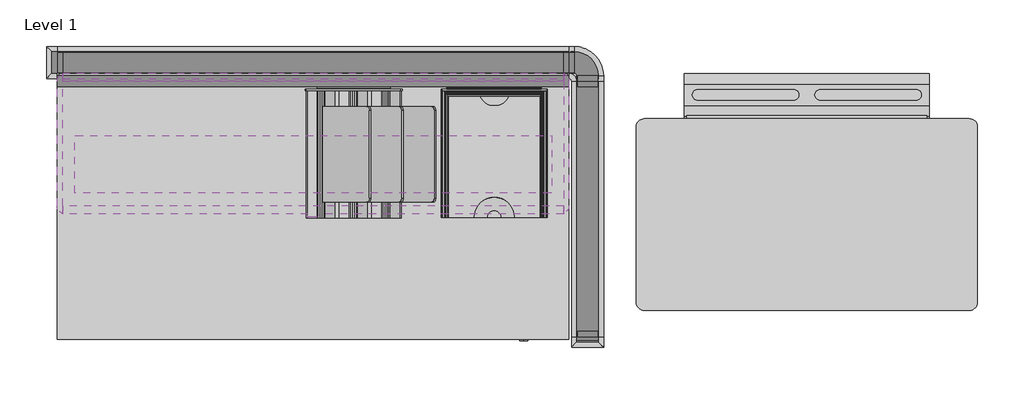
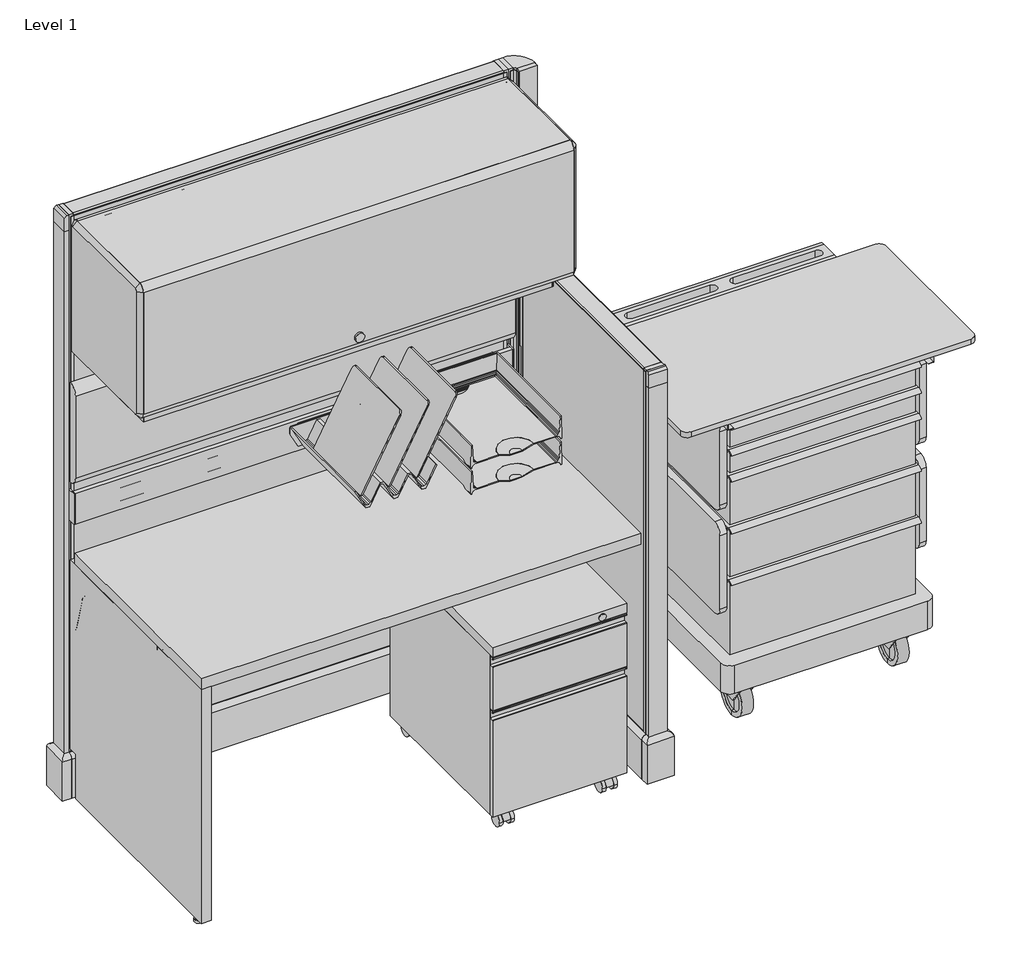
# One storey, incomplete: 26 furniture elements, 1 light fixture.
"""IFC4 building model written with IfcOpenShell, lengths in millimetres."""

from ifc_helpers import new_model, si_unit, origin, place, context, project, spatial, transform, mapped, element, save
from components import furniture_7109f743, furniture_22e63fa4, furniture_cda7a09b, furniture_49f88748, furniture_11472d89, furniture_ebb16344, furniture_8d228605, furniture_083a197f, furniture_cf1839e9, furniture_645566ab, furniture_ddd7d6d3, furniture_545f82d3, furniture_77e4657b, furniture_9296cfee, furniture_28e0df5b, furniture_b7c7402d, furniture_9d04d1cc, furniture_cbf60e6f, furniture_c08c7397, furniture_5c2546f9, furniture_ba981915, a_3_f482e030, a_3_189406c7, b_6_92a8d064, b_6_520a1b3d, c_9_607037d1, light_fixture_48w_for_action_office_09e55f13

model = new_model("IFC4")

# Units and contexts
model_context = context("Model", 3, world=origin())
ifc_project = project(units=[si_unit("LENGTHUNIT", "METRE", prefix="MILLI")], contexts=[model_context])

# Site, building, storey
site = spatial("IfcSite", under=ifc_project)
building = spatial("IfcBuilding", under=site)
storey = spatial("IfcBuildingStorey", under=building, Name="Level 1", Elevation=0.0)

# Furniture
placement = place(None, origin())
furniture_shape = furniture_7109f743(model_context)
element("IfcFurniture", 1, ObjectType="HermanMiller_ActionOffice_A1110_Hard-SurfacedPanelStandardBase : 67\"H x 48\"W-N", at=placement, inside=storey, context=model_context, shape_type="MappedRepresentation", body=[
    mapped(furniture_shape, transform((609.6, -19.05, 0.0), x_axis=(1.0, 0.0, 0.0), y_axis=(0.0, 1.0, 0.0), z_axis=(0.0, 0.0, 1.0))),
])
furniture_2_shape = furniture_22e63fa4(model_context)
element("IfcFurniture", 2, ObjectType="HermanMiller_ActionOffice_A1110_Hard-SurfacedPanelStandardBase : 47\"H x 24\"W-N", at=placement, inside=storey, context=model_context, shape_type="MappedRepresentation", body=[
    mapped(furniture_2_shape, transform((1263.6493657, -368.3, 0.0), x_axis=(0.0, -1.0, 0.0), y_axis=(1.0, 0.0, 0.0), z_axis=(0.0, 0.0, 1.0))),
])
furniture_3_shape = furniture_cda7a09b(model_context)
element("IfcFurniture", 3, ObjectType="HermanMiller_ActionOffice_A3610_ToolBar : 4\"H x 48\"W", at=placement, inside=storey, context=model_context, shape_type="MappedRepresentation", body=[
    mapped(furniture_3_shape, transform((609.6, -57.1499996, 0.0), x_axis=(1.0, 0.0, 0.0), y_axis=(0.0, 1.0, 0.0), z_axis=(0.0, 0.0, 1.0))),
])
furniture_4_shape = furniture_49f88748(model_context)
element("IfcFurniture", 4, ObjectType="HermanMiller_ActionOffice_A3410_B-StyleTackboard : 12\"H x 48\"W", at=placement, inside=storey, context=model_context, shape_type="MappedRepresentation", body=[
    mapped(furniture_4_shape, transform((609.6, -63.5, 0.0), x_axis=(1.0, 0.0, 0.0), y_axis=(0.0, 1.0, 0.0), z_axis=(0.0, 0.0, 1.0))),
])
furniture_5_shape = furniture_11472d89(model_context)
element("IfcFurniture", 5, ObjectType="HermanMiller_TuStorage_LW110_W-PullMobilePedestal : 20D BF", at=placement, inside=storey, context=model_context, shape_type="MappedRepresentation", body=[
    mapped(furniture_5_shape, transform((994.43794, -433.3875, 0.0), x_axis=(1.0, 0.0, 0.0), y_axis=(0.0, 1.0, 0.0), z_axis=(0.0, 0.0, 1.0))),
])
furniture_6_shape = furniture_ebb16344(model_context)
element("IfcFurniture", 6, ObjectType="HermanMiller_ActionOffice_B-StyleFlipperDoor : Paint 15-1/2H x 13D x 48W", at=placement, inside=storey, context=model_context, shape_type="MappedRepresentation", body=[
    mapped(furniture_6_shape, transform((609.6, -225.425, 127.0), x_axis=(1.0, 0.0, 0.0), y_axis=(0.0, 1.0, 0.0), z_axis=(0.0, 0.0, 1.0))),
])
furniture_7_shape = furniture_8d228605(model_context)
element("IfcFurniture", 7, ObjectType="HermanMiller_CoStruc_B-StyleShelf : 15-1/2H x 13D x 48W", at=placement, inside=storey, context=model_context, shape_type="MappedRepresentation", body=[
    mapped(furniture_7_shape, transform((733.5420045, -225.425, 127.0), x_axis=(1.0, 0.0, 0.0), y_axis=(0.0, 1.0, 0.0), z_axis=(0.0, 0.0, 1.0))),
])
furniture_8_shape = furniture_083a197f(model_context)
element("IfcFurniture", 8, ObjectType="HermanMiller_ActionOffice_A2310_Sq-EdgeRectangularWorkSurface : 24\"D x 48\"W", at=placement, inside=storey, context=model_context, shape_type="MappedRepresentation", body=[
    mapped(furniture_8_shape, transform((609.6, -365.125, 0.0), x_axis=(1.0, 0.0, 0.0), y_axis=(0.0, 1.0, 0.0), z_axis=(0.0, 0.0, 1.0))),
])
furniture_9_shape = furniture_cf1839e9(model_context)
element("IfcFurniture", 9, ObjectType="HermanMiller_CoStruc_CO205_CFrame : 10\"H x 17\"D x 22\"W", at=placement, inside=storey, context=model_context, shape_type="MappedRepresentation", body=[
    mapped(furniture_9_shape, transform((1691.3807951, -215.4268397, 0.0), x_axis=(1.0, 0.0, 0.0), y_axis=(0.0, 1.0, 0.0), z_axis=(0.0, 0.0, 1.0))),
])
furniture_10_shape = furniture_645566ab(model_context)
element("IfcFurniture", 10, ObjectType="HermanMiller_CoStruc_CO555_CounterTop : 18\"D x 32\"W", at=placement, inside=storey, context=model_context, shape_type="MappedRepresentation", body=[
    mapped(furniture_10_shape, transform((1786.3185, -381.93472, -9.525), x_axis=(1.0, 0.0, 0.0), y_axis=(0.0, 1.0, 0.0), z_axis=(0.0, 0.0, 1.0))),
])
furniture_11_shape = furniture_ddd7d6d3(model_context)
element("IfcFurniture", 11, ObjectType="HermanMiller_CoStruc_CO205_CFrame : 10\"H x 17\"D x 22\"W", at=placement, inside=storey, context=model_context, shape_type="MappedRepresentation", body=[
    mapped(furniture_11_shape, transform((1691.3807951, -215.4268397, 0.0), x_axis=(1.0, 0.0, 0.0), y_axis=(0.0, 1.0, 0.0), z_axis=(0.0, 0.0, 1.0))),
])
furniture_12_shape = furniture_545f82d3(model_context)
element("IfcFurniture", 12, ObjectType="HermanMiller_CoStruc_CO212_LCart : 36\"H x 23\"W Std", at=placement, inside=storey, context=model_context, shape_type="MappedRepresentation", body=[
    mapped(furniture_12_shape, transform((1786.3185, -327.95972, 0.0), x_axis=(1.0, 0.0, 0.0), y_axis=(0.0, 1.0, 0.0), z_axis=(0.0, 0.0, 1.0))),
])
furniture_13_shape = furniture_77e4657b(model_context)
element("IfcFurniture", 13, ObjectType="HermanMiller_ThrivePortfolio_Y7216_PaperTray : 3\"H x 12\"D x 10\"W", at=placement, inside=storey, context=model_context, shape_type="MappedRepresentation", body=[
    mapped(furniture_13_shape, transform((1041.29586, -235.1151, 0.0), x_axis=(1.0, 0.0, 0.0), y_axis=(0.0, 1.0, 0.0), z_axis=(0.0, 0.0, 1.0))),
])
furniture_14_shape = furniture_9296cfee(model_context)
element("IfcFurniture", 14, ObjectType="HermanMiller_ThrivePortfolio_Y7216_PaperTray : 3\"H x 12\"D x 10\"W", at=placement, inside=storey, context=model_context, shape_type="MappedRepresentation", body=[
    mapped(furniture_14_shape, transform((1041.29586, -235.1151, 0.0), x_axis=(1.0, 0.0, 0.0), y_axis=(0.0, 1.0, 0.0), z_axis=(0.0, 0.0, 1.0))),
])
furniture_15_shape = furniture_28e0df5b(model_context)
element("IfcFurniture", 15, ObjectType="HermanMiller_ThrivePortfolio_Y7218_DiagonalTray : 8 1/2\"H x 12\"D x 13\"W", at=placement, inside=storey, context=model_context, shape_type="MappedRepresentation", body=[
    mapped(furniture_15_shape, transform((706.399157, -236.62386, 0.0), x_axis=(1.0, 0.0, 0.0), y_axis=(0.0, 1.0, 0.0), z_axis=(0.0, 0.0, 1.0))),
])
furniture_16_shape = furniture_b7c7402d(model_context)
element("IfcFurniture", 16, ObjectType="HermanMiller_ActionOffice_A2380_WorkSuraceSupportPanelEnd : 24\"D", at=placement, inside=storey, context=model_context, shape_type="MappedRepresentation", body=[
    mapped(furniture_16_shape, transform((0.0, -679.45, 0.0), x_axis=(1.0, 0.0, 0.0), y_axis=(0.0, 1.0, 0.0), z_axis=(0.0, 0.0, 1.0))),
])
furniture_17_shape = furniture_9d04d1cc(model_context)
element("IfcFurniture", 17, ObjectType="HermanMiller_ActionOffice_AO259_AO272_FinishedEndChangeOfHeight : 32\"H Panel/Conn", at=placement, inside=storey, context=model_context, shape_type="MappedRepresentation", body=[
    mapped(furniture_17_shape, transform((1184.078369, -130.3709967, 0.0), x_axis=(0.0, -1.0, 0.0), y_axis=(1.0, 0.0, 0.0), z_axis=(0.0, 0.0, 1.0))),
])
furniture_18_shape = furniture_cbf60e6f(model_context)
element("IfcFurniture", 18, ObjectType="HermanMiller_ActionOffice_A1271_FinishedEndStandardBase : 47\"H", at=placement, inside=storey, context=model_context, shape_type="MappedRepresentation", body=[
    mapped(furniture_18_shape, transform((3712.3881533, 1311.7560512, 0.0), x_axis=(0.0, -1.0, 0.0), y_axis=(1.0, 0.0, 0.0), z_axis=(0.0, 0.0, 1.0))),
])
furniture_19_shape = furniture_c08c7397(model_context)
element("IfcFurniture", 19, ObjectType="HermanMiller_ActionOffice_A3390_B-StyleFlipperDoorBackPanel : 48\"W", at=placement, inside=storey, context=model_context, shape_type="MappedRepresentation", body=[
    mapped(furniture_19_shape, transform((611.1875, -57.15, 0.0), x_axis=(1.0, 0.0, 0.0), y_axis=(0.0, 1.0, 0.0), z_axis=(0.0, 0.0, 1.0))),
])
furniture_20_shape = furniture_5c2546f9(model_context)
element("IfcFurniture", 20, ObjectType="HermanMiller_ActionOffice_A1271_FinishedEndStandardBase : 67\"H", at=placement, inside=storey, context=model_context, shape_type="MappedRepresentation", body=[
    mapped(furniture_20_shape, transform((1984.8560512, -2467.7887877, 0.0), x_axis=(-1.0, 0.0, 0.0), y_axis=(0.0, -1.0, 0.0), z_axis=(0.0, 0.0, 1.0))),
])
furniture_21_shape = furniture_ba981915(model_context)
element("IfcFurniture", 21, ObjectType="HermanMiller_ActionOffice_A1220_90ConnectorStandardBase : 67\"H 2-Way-Hard", at=placement, inside=storey, context=model_context, shape_type="MappedRepresentation", body=[
    mapped(furniture_21_shape, transform((1257.3, -33.5639414, 0.0), x_axis=(1.0, 0.0, 0.0), y_axis=(0.0, 1.0, 0.0), z_axis=(0.0, 0.0, 1.0))),
])
a_3_shape = a_3_f482e030(model_context)
element("IfcFurniture", 22, ObjectType="HermanMiller_CoStruc_CO207_Drawer : A - 3", at=placement, inside=storey, context=model_context, shape_type="MappedRepresentation", body=[
    mapped(a_3_shape, transform((1786.2511517, -393.11834, 0.0), x_axis=(1.0, 0.0, 0.0), y_axis=(0.0, 1.0, 0.0), z_axis=(0.0, 0.0, 1.0))),
])
a_3_2_shape = a_3_189406c7(model_context)
element("IfcFurniture", 23, ObjectType="HermanMiller_CoStruc_CO207_Drawer : A - 3", at=placement, inside=storey, context=model_context, shape_type="MappedRepresentation", body=[
    mapped(a_3_2_shape, transform((1786.2511517, -393.11834, 0.0), x_axis=(1.0, 0.0, 0.0), y_axis=(0.0, 1.0, 0.0), z_axis=(0.0, 0.0, 1.0))),
])
b_6_shape = b_6_92a8d064(model_context)
element("IfcFurniture", 24, ObjectType="HermanMiller_CoStruc_CO207_Drawer : B - 6", at=placement, inside=storey, context=model_context, shape_type="MappedRepresentation", body=[
    mapped(b_6_shape, transform((1786.2511517, -393.11834, 0.0), x_axis=(1.0, 0.0, 0.0), y_axis=(0.0, 1.0, 0.0), z_axis=(0.0, 0.0, 1.0))),
])
b_6_2_shape = b_6_520a1b3d(model_context)
element("IfcFurniture", 25, ObjectType="HermanMiller_CoStruc_CO207_Drawer : B - 6", at=placement, inside=storey, context=model_context, shape_type="MappedRepresentation", body=[
    mapped(b_6_2_shape, transform((1786.2511517, -393.11834, 0.0), x_axis=(1.0, 0.0, 0.0), y_axis=(0.0, 1.0, 0.0), z_axis=(0.0, 0.0, 1.0))),
])
c_9_shape = c_9_607037d1(model_context)
element("IfcFurniture", 26, ObjectType="HermanMiller_CoStruc_CO207_Drawer : C - 9", at=placement, inside=storey, context=model_context, shape_type="MappedRepresentation", body=[
    mapped(c_9_shape, transform((1786.2511517, -393.11834, 0.0), x_axis=(1.0, 0.0, 0.0), y_axis=(0.0, 1.0, 0.0), z_axis=(0.0, 0.0, 1.0))),
])

# Light fixture
light_fixture_48w_for_action_office_shape = light_fixture_48w_for_action_office_09e55f13(model_context)
element("IfcLightFixture", 27, ObjectType="HermanMiller_SupplementalProducts_G6170_EUnderShelfLEDTaskLight : 48W for Action Office", at=placement, inside=storey, context=model_context, shape_type="MappedRepresentation", body=[
    mapped(light_fixture_48w_for_action_office_shape, transform((609.6, -261.874, 82.55), x_axis=(1.0, 0.0, 0.0), y_axis=(0.0, 1.0, 0.0), z_axis=(0.0, 0.0, 1.0))),
])

save(model, "model.ifc")
